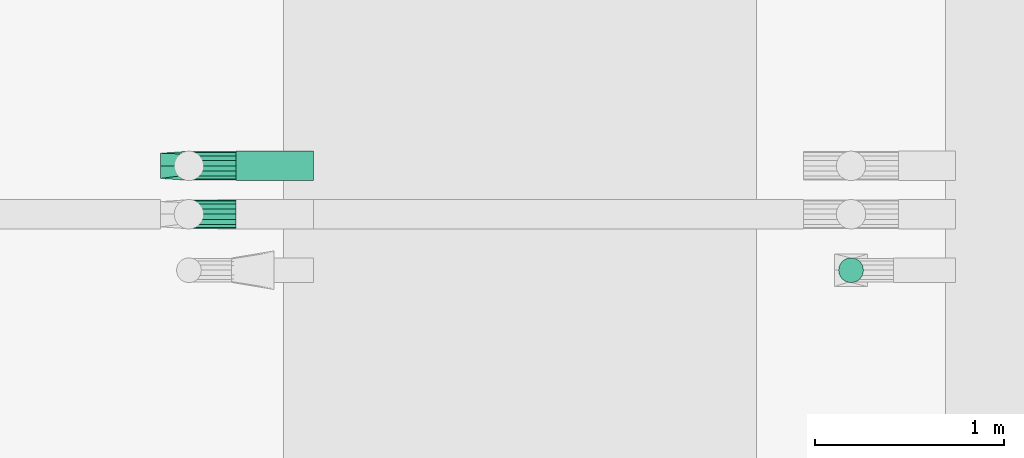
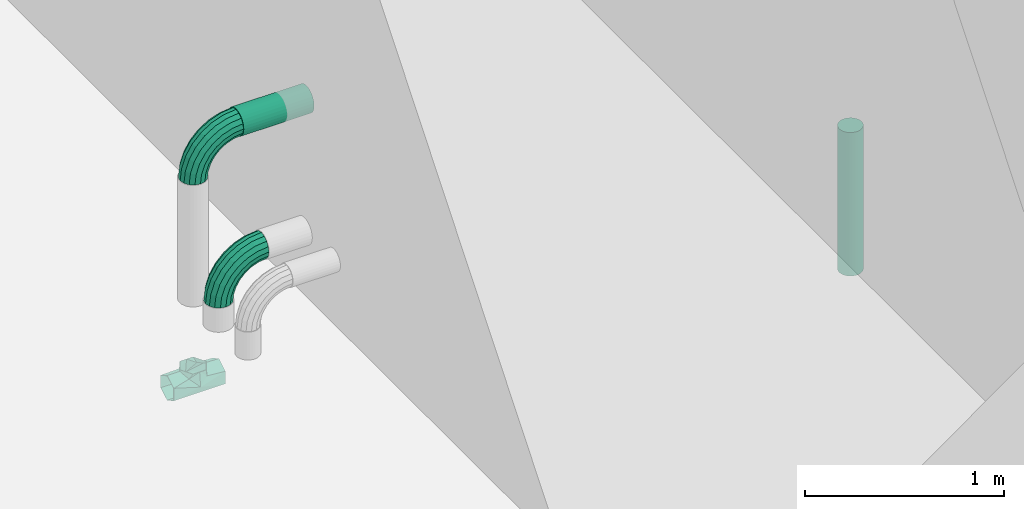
# One storey, part 20 of 23: 3 flow fittings, 2 flow segments.
"""IFC2X3 building model written with IfcOpenShell, lengths in millimetres."""

from ifc_helpers import new_model, entity, si_unit, converted_unit, direction, frame, frame_2d, origin, origin_2d_with_axis, place, context, subcontext, project, spatial, circle, extrude, faceted_brep, source, transform, mapped, material, type_object, type_shapes, element, save


model = new_model("IFC2X3")

# Units and contexts
model_context = context("Model", 3, precision=0.01, world=origin(), true_north=direction((6.123031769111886e-17, 1.0)))
body_context = subcontext(model_context, "Body", "Model", "MODEL_VIEW")
ifc_project = project(units=[si_unit("LENGTHUNIT", "METRE", prefix="MILLI"), converted_unit("PLANEANGLEUNIT", "DEGREE", entity("IfcPlaneAngleMeasure", 0.017453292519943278), si_unit("PLANEANGLEUNIT", "RADIAN"), dimensions=[0, 0, 0, 0, 0, 0, 0]), si_unit("AREAUNIT", "SQUARE_METRE")], contexts=[model_context])

# Site, building, storey
site_placement = place(None, frame((7776.576483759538, 118.3519876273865, 0.0)))
site = spatial("IfcSite", under=ifc_project, at=site_placement, Name="Default", CompositionType="ELEMENT")
building_placement = place(site_placement, origin())
building = spatial("IfcBuilding", under=site, at=building_placement, Name="Bygning (endres i Project Information)", CompositionType="ELEMENT")
storey_placement = place(building_placement, frame((0.0, 0.0, 19000.0)))
storey = spatial("IfcBuildingStorey", under=building, at=storey_placement, Name="Plan 01", CompositionType="ELEMENT", Elevation=19000.0)

# Flow segments
ifc_material_1 = material(Name="SS 2343 Rustfritt stål, prosessrør, generisk")
pipe_segment_type = type_object("IfcPipeSegmentType", Name="Pipe Types:AISI 304L Rustfritt", PredefinedType="NOTDEFINED", material=ifc_material_1)
flow_segment_1_placement = place(storey_placement, origin())
element("IfcFlowSegment", 1, at=flow_segment_1_placement, inside=storey, type_object=pipe_segment_type, Name="Pipe Types:AISI 304L Rustfritt", ObjectType="Pipe Types:AISI 304L Rustfritt", context=body_context, shape_type="SweptSolid", body=[
    extrude(circle(Radius=78.0, at=frame_2d((-8.662937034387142e-12, 0.0), x_axis=(1.0, 0.0))), frame((24574.001374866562, 25237.757305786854, 996.2612635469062), z_axis=(1.0, 0.0, 0.0), x_axis=(0.0, 1.0, 0.0)), (0.0, 0.0, 1.0), 409.175621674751),
])
flow_segment_2_placement = place(storey_placement, origin())
element("IfcFlowSegment", 2, at=flow_segment_2_placement, inside=storey, type_object=pipe_segment_type, Name="Pipe Types:AISI 304L Rustfritt", ObjectType="Pipe Types:AISI 304L Rustfritt", context=body_context, shape_type="SweptSolid", body=[
    extrude(circle(Radius=65.5, at=origin_2d_with_axis()), frame((27824.00137486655, 24685.757305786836, -709.8499999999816)), (0.0, 0.0, 1.0), 881.1499999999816),
])

# Flow fittings
pipe_fitting_type_1 = type_object("IfcPipeFittingType", Name="VA_prosess_rustfritt_bend_D+100:VA_prosess_rustfritt_bend_D+100", PredefinedType="NOTDEFINED", material=ifc_material_1)
shared_shape_1 = source(origin(), body_context, "Body", "Brep", [
    faceted_brep([(-177.68069646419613, -66.85157145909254, 0.0), (-178.95107627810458, -61.28567382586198, 28.701257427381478), (-250.0, -69.29096493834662, 28.701257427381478), (-250.0, -75.0, 0.0), (-182.56881190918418, -45.43533838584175, 53.033008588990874), (-250.0, -53.03300858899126, 53.033008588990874), (-187.98313590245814, -21.7136350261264, 69.29096493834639), (-250.0, -28.70125742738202, 69.29096493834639), (-194.36976651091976, 6.268021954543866, 75.0), (-250.0, 0.0, 75.0), (-200.7563971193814, 34.24967893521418, 69.29096493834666), (-250.0, 28.701257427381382, 69.29096493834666), (-206.17072111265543, 57.97138229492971, 53.033008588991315), (-250.0, 53.03300858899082, 53.033008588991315), (-209.78845674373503, 73.82171773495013, 28.70125742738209), (-250.0, 69.29096493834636, 28.70125742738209), (-211.05883655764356, 79.38761536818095, 0.0), (-250.0, 75.0, 0.0), (-209.78845674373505, 73.82171773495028, -28.70125742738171), (-250.0, 69.29096493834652, -28.70125742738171), (-206.17072111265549, 57.971382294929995, -53.03300858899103), (-250.0, 53.03300858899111, -53.03300858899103), (-200.75639711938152, 34.24967893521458, -69.29096493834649), (-250.0, 28.701257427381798, -69.29096493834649), (-194.36976651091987, 6.268021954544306, -75.0), (-250.0, 0.0, -75.0), (-187.98313590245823, -21.713635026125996, -69.29096493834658), (-250.0, -28.701257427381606, -69.29096493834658), (-182.56881190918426, -45.43533838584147, -53.033008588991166), (-250.0, -53.033008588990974, -53.033008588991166), (-178.95107627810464, -61.28567382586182, -28.7012574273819), (-250.0, -69.29096493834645, -28.7012574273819), (-108.9877847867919, -42.814882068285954, 0.0), (-111.4648422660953, -37.67121921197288, 28.701257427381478), (-118.5189051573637, -23.023306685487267, 53.033008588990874), (-129.07605633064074, -1.1011563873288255, 69.29096493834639), (-141.52906522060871, 24.75778302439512, 75.0), (-153.98207411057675, 50.6167224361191, 69.29096493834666), (-164.53922528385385, 72.53887273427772, 53.033008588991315), (-171.5932881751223, 87.18678526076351, 28.70125742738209), (-174.07034565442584, 92.33044811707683, 0.0), (-171.59328817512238, 87.18678526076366, -28.70125742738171), (-164.53922528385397, 72.53887273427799, -53.03300858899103), (-153.98207411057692, 50.616722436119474, -69.29096493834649), (-141.5290652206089, 24.757783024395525, -75.0), (-129.0760563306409, -1.1011563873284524, -69.29096493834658), (-118.51890515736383, -23.02330668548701, -53.033008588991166), (-111.46484226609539, -37.67121921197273, -28.7012574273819), (-47.365814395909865, -4.095231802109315, 0.0), (-50.92533953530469, 0.36827154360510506, 28.701257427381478), (-61.062009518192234, 13.079253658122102, 53.033008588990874), (-76.23260822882, 32.10258273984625, 69.29096493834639), (-94.12754953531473, 54.54212938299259, 75.0), (-112.02249084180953, 76.98167602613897, 69.29096493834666), (-127.19308955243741, 96.00500510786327, 53.033008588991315), (-137.32975953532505, 108.71598722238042, 28.70125742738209), (-140.88928467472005, 113.17949056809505, 0.0), (-137.32975953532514, 108.71598722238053, -28.70125742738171), (-127.19308955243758, 96.0050051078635, -53.03300858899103), (-112.02249084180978, 76.9816760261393, -69.29096493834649), (-94.12754953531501, 54.54212938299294, -75.0), (-76.23260822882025, 32.10258273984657, -69.29096493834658), (-61.06200951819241, 13.079253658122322, -53.033008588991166), (-50.92533953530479, 0.36827154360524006, -28.7012574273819), (4.095231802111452, 47.36581439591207, 0.0), (-0.36827154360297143, 50.9253395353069, 28.701257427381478), (-13.079253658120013, 61.06200951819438, 53.033008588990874), (-32.10258273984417, 76.23260822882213, 69.29096493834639), (-54.54212938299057, 94.12754953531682, 75.0), (-76.981676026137, 112.02249084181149, 69.29096493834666), (-96.00500510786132, 127.19308955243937, 53.033008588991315), (-108.71598722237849, 137.32975953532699, 28.70125742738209), (-113.17949056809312, 140.88928467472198, 0.0), (-108.71598722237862, 137.32975953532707, -28.70125742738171), (-96.00500510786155, 127.19308955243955, -53.03300858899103), (-76.98167602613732, 112.02249084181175, -69.29096493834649), (-54.542129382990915, 94.1275495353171, -75.0), (-32.1025827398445, 76.23260822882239, -69.29096493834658), (-13.079253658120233, 61.06200951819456, -53.033008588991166), (-0.3682715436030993, 50.925339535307, -28.7012574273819), (42.81488206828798, 108.98778478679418, 0.0), (37.671219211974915, 111.4648422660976, 28.701257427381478), (23.023306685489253, 118.51890515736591, 53.033008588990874), (1.1011563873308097, 129.0760563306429, 69.29096493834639), (-24.75778302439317, 141.52906522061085, 75.0), (-50.61672243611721, 153.98207411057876, 69.29096493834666), (-72.53887273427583, 164.53922528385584, 53.033008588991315), (-87.18678526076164, 171.59328817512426, 28.70125742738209), (-92.33044811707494, 174.0703456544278, 0.0), (-87.18678526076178, 171.59328817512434, -28.70125742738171), (-72.53887273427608, 164.53922528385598, -53.03300858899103), (-50.61672243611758, 153.98207411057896, -69.29096493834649), (-24.757783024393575, 141.52906522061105, -75.0), (1.101156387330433, 129.0760563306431, -69.29096493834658), (23.023306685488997, 118.51890515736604, -53.033008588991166), (37.67121921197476, 111.46484226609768, -28.7012574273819), (66.8515714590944, 177.68069646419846, 0.0), (61.285673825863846, 178.9510762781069, 28.701257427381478), (45.4353383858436, 182.56881190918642, 53.033008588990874), (21.713635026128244, 187.98313590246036, 69.29096493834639), (-6.268021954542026, 194.36976651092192, 75.0), (-34.24967893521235, 200.75639711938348, 69.29096493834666), (-57.9713822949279, 206.17072111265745, 53.033008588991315), (-73.82171773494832, 209.78845674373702, 28.70125742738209), (-79.38761536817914, 211.05883655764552, 0.0), (-73.82171773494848, 209.78845674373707, -28.70125742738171), (-57.97138229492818, 206.1707211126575, -53.03300858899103), (-34.249678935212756, 200.75639711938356, -69.29096493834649), (-6.268021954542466, 194.36976651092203, -75.0), (21.71363502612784, 187.98313590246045, -69.29096493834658), (45.43533838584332, 182.5688119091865, -53.033008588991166), (61.28567382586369, 178.95107627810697, -28.7012574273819), (75.0, 250.0, 0.0), (69.29096493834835, 250.0, 28.701257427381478), (53.033008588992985, 250.0, 53.033008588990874), (28.701257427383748, 250.0, 69.29096493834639), (0.0, 250.0, 75.0), (-28.701257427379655, 250.0, 69.29096493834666), (-53.03300858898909, 250.0, 53.033008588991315), (-69.29096493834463, 250.0, 28.70125742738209), (-75.0, 250.0, 0.0), (-69.29096493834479, 250.0, -28.70125742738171), (-53.03300858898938, 250.0, -53.03300858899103), (-28.70125742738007, 250.0, -69.29096493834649), (0.0, 250.0, -75.0), (28.701257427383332, 250.0, -69.29096493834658), (53.0330085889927, 250.0, -53.033008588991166), (69.29096493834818, 250.0, -28.7012574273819)], [[[0, 1, 2, 3]], [[1, 4, 5, 2]], [[4, 6, 7, 5]], [[6, 8, 9, 7]], [[8, 10, 11, 9]], [[10, 12, 13, 11]], [[12, 14, 15, 13]], [[14, 16, 17, 15]], [[16, 18, 19, 17]], [[18, 20, 21, 19]], [[20, 22, 23, 21]], [[22, 24, 25, 23]], [[24, 26, 27, 25]], [[26, 28, 29, 27]], [[28, 30, 31, 29]], [[30, 0, 3, 31]], [[32, 33, 1, 0]], [[33, 34, 4, 1]], [[34, 35, 6, 4]], [[35, 36, 8, 6]], [[36, 37, 10, 8]], [[37, 38, 12, 10]], [[38, 39, 14, 12]], [[39, 40, 16, 14]], [[40, 41, 18, 16]], [[41, 42, 20, 18]], [[42, 43, 22, 20]], [[43, 44, 24, 22]], [[44, 45, 26, 24]], [[45, 46, 28, 26]], [[46, 47, 30, 28]], [[47, 32, 0, 30]], [[48, 49, 33, 32]], [[49, 50, 34, 33]], [[50, 51, 35, 34]], [[51, 52, 36, 35]], [[52, 53, 37, 36]], [[53, 54, 38, 37]], [[54, 55, 39, 38]], [[55, 56, 40, 39]], [[56, 57, 41, 40]], [[57, 58, 42, 41]], [[58, 59, 43, 42]], [[59, 60, 44, 43]], [[60, 61, 45, 44]], [[61, 62, 46, 45]], [[62, 63, 47, 46]], [[63, 48, 32, 47]], [[64, 65, 49, 48]], [[65, 66, 50, 49]], [[66, 67, 51, 50]], [[67, 68, 52, 51]], [[68, 69, 53, 52]], [[69, 70, 54, 53]], [[70, 71, 55, 54]], [[71, 72, 56, 55]], [[72, 73, 57, 56]], [[73, 74, 58, 57]], [[74, 75, 59, 58]], [[75, 76, 60, 59]], [[76, 77, 61, 60]], [[77, 78, 62, 61]], [[78, 79, 63, 62]], [[79, 64, 48, 63]], [[80, 81, 65, 64]], [[81, 82, 66, 65]], [[82, 83, 67, 66]], [[83, 84, 68, 67]], [[84, 85, 69, 68]], [[85, 86, 70, 69]], [[86, 87, 71, 70]], [[87, 88, 72, 71]], [[88, 89, 73, 72]], [[89, 90, 74, 73]], [[90, 91, 75, 74]], [[91, 92, 76, 75]], [[92, 93, 77, 76]], [[93, 94, 78, 77]], [[94, 95, 79, 78]], [[95, 80, 64, 79]], [[96, 97, 81, 80]], [[97, 98, 82, 81]], [[98, 99, 83, 82]], [[99, 100, 84, 83]], [[100, 101, 85, 84]], [[101, 102, 86, 85]], [[102, 103, 87, 86]], [[103, 104, 88, 87]], [[104, 105, 89, 88]], [[105, 106, 90, 89]], [[106, 107, 91, 90]], [[107, 108, 92, 91]], [[108, 109, 93, 92]], [[109, 110, 94, 93]], [[110, 111, 95, 94]], [[111, 96, 80, 95]], [[112, 113, 97, 96]], [[113, 114, 98, 97]], [[114, 115, 99, 98]], [[115, 116, 100, 99]], [[116, 117, 101, 100]], [[117, 118, 102, 101]], [[118, 119, 103, 102]], [[119, 120, 104, 103]], [[120, 121, 105, 104]], [[121, 122, 106, 105]], [[122, 123, 107, 106]], [[123, 124, 108, 107]], [[124, 125, 109, 108]], [[125, 126, 110, 109]], [[126, 127, 111, 110]], [[127, 112, 96, 111]], [[3, 2, 5, 7, 9, 11, 13, 15, 17, 19, 21, 23, 25, 27, 29, 31]], [[127, 126, 125, 124, 123, 122, 121, 120, 119, 118, 117, 116, 115, 114, 113, 112]]]),
])
type_shapes(pipe_fitting_type_1, [shared_shape_1])
for number, where, z_axis, x_axis in (
    (3, (24324.001374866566, 24981.757305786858, 396.26126354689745), (0.0, -1.0, 0.0), (-1.0, 0.0, 0.0)),
    (4, (24324.001374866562, 25237.757305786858, 996.2612635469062), (0.0, -1.0, 0.0), (-1.0, 0.0, 0.0)),
):
    element("IfcFlowFitting", number, at=place(storey_placement, frame(where, z_axis=z_axis, x_axis=x_axis)), inside=storey, type_object=pipe_fitting_type_1, material=ifc_material_1, Name="VA_prosess_rustfritt_bend_D+100:VA_prosess_rustfritt_bend_D+100", ObjectType="VA_prosess_rustfritt_bend_D+100:VA_prosess_rustfritt_bend_D+100", context=body_context, shape_type="MappedRepresentation", body=[
        mapped(shared_shape_1, transform((0.0, 0.0, 0.0), scale=1.0)),
    ])
ifc_material_2 = material(Name="Rustfritt")
pipe_fitting_type_2 = type_object("IfcPipeFittingType", Name="T-rør,Rustfritt EN 1,4307304L, sveiste, oppkraget, metrisk, EN 10253-4:Standard", PredefinedType="NOTDEFINED", material=ifc_material_2)
shared_shape_2 = source(origin(), body_context, "Body", "Brep", [
    faceted_brep([(-150.0, 38.49999999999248, -66.68395609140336), (-150.0, 37.49999999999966, -64.95190528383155), (-150.0, 56.24999999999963, -32.4759526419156), (-150.0, 75.0, 0.0), (-150.0, 58.22570226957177, -32.518037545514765), (-150.0, 0.0, -64.9519052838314), (-150.0, -37.50000000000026, -64.95190528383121), (-150.0, 0.0, -66.68395609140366), (-150.0, -38.50000000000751, -66.68395609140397), (-150.0, -56.250000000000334, -32.47595264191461), (-150.0, -75.0, 0.0), (-150.0, -57.75000000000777, -33.34197804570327), (-150.0, -77.0, 0.0), (-150.0, -65.97619893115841, 15.629681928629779), (-150.0, -56.25000000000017, 32.475952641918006), (-150.0, -37.50000000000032, 64.95190528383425), (-150.0, -67.61285111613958, 16.25901880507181), (-150.0, -57.75000000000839, 33.3419780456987), (-150.0, -38.500000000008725, 66.68395609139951), (-150.0, 0.0, 66.68395609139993), (-150.0, 38.4999999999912, 66.68395609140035), (-150.0, 0.0, 64.95190528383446), (-150.0, 37.4999999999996, 64.95190528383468), (-150.0, 57.74999999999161, 33.34197804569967), (-150.0, 77.0, 0.0), (-150.0, 56.95239642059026, 31.25936635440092), (150.0, 38.499999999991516, -66.68395609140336), (150.0, 75.0, 0.0), (150.0, 56.24999999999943, -32.47595264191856), (150.0, 57.749999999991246, -33.34197804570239), (150.0, 37.49999999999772, -64.95190528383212), (150.0, 0.0, -64.95190528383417), (150.0, -37.50000000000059, -64.95190528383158), (150.0, 0.0, -66.68395609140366), (150.0, 77.0, 0.0), (150.0, 56.249999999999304, 32.47595264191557), (150.0, 37.49999999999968, 64.95190528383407), (150.0, 57.749999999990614, 33.34197804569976), (150.0, 38.499999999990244, 66.68395609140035), (150.0, 0.0, 64.95190528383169), (150.0, -37.50000000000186, 64.95190528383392), (150.0, 0.0, 66.68395609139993), (150.0, -38.50000000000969, 66.68395609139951), (150.0, -57.75000000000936, 33.34197804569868), (150.0, -77.0, 0.0), (150.0, -56.25000000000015, 32.47595264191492), (150.0, -75.0, 0.0), (150.0, -67.61285113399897, -16.259018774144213), (150.0, -57.75000000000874, -33.34197804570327), (150.0, -38.50000000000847, -66.68395609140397), (150.0, -56.25000000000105, -32.475952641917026), (150.0, -65.97619884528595, -15.629682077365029), (65.77906443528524, -65.77906443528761, 27.16804452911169), (54.55812887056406, -54.558128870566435, 54.33608905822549), (0.0, 0.0, 77.0), (-44.65656453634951, -44.65656453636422, 62.72791439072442), (77.0, -77.0, 0.0), (-77.0, -77.0, 0.0), (-68.9141411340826, -68.91414113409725, 15.68197859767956), (-60.828282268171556, -60.82828226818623, 31.363957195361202), (-59.763127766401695, -59.76312776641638, 33.42975260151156), (0.0, 0.0, -77.0), (68.91414113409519, -68.91414113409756, -15.681978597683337), (60.828282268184, -60.82828226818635, -31.36395719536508), (59.7631277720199, -59.76312777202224, -33.42975259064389), (44.65656453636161, -44.656564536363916, -62.72791439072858), (-65.77906443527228, -65.77906443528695, -27.16804452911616), (-54.55812887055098, -54.558128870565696, -54.33608905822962), (38.50000000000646, -85.71428571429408, -66.68395609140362), (75.0, -85.71428571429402, 0.0), (67.10417402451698, -85.71428571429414, -13.675971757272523), (60.572489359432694, -85.71428571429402, -28.453283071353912), (59.20834804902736, -85.7142857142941, -27.35194351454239), (37.50000000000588, -85.71428571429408, -64.95190528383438), (0.0, -85.71428571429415, -64.95190528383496), (-37.499999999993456, -85.71428571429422, -64.95190528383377), (0.0, -85.71428571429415, -66.68395609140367), (68.78624467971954, -85.71428571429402, -14.226641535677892), (77.0, -85.71428571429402, 0.0), (56.25000000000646, -85.71428571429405, 32.475952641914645), (37.500000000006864, -85.71428571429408, 64.95190528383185), (57.750000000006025, -85.71428571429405, 33.34197804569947), (38.50000000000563, -85.71428571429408, 66.68395609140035), (0.0, -85.71428571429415, 64.95190528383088), (-37.49999999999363, -85.71428571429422, 64.9519052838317), (0.0, -85.71428571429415, 66.68395609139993), (-38.4999999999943, -85.71428571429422, 66.68395609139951), (-60.57248947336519, -85.71428571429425, 28.45328287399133), (-68.7862447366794, -85.71428571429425, 14.226641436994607), (-77.0, -85.71428571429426, 0.0), (-59.20834518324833, -85.71428571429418, 27.35194847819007), (-67.10417259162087, -85.71428571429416, 13.67597423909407), (-75.0, -85.71428571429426, 0.0), (-57.74999999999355, -85.71428571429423, -33.34197804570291), (-38.499999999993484, -85.71428571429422, -66.68395609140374), (-56.2499999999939, -85.71428571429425, -32.47595264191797), (-64.06768997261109, -64.06768997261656, -26.465219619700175), (-53.1353799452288, -53.13537994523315, -52.93043923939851), (59.24496950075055, -59.24496950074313, -30.551698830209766), (-75.0, -75.0, 0.0), (43.48993900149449, -43.48993900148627, -61.10339766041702), (67.12248475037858, -67.12248475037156, -15.275849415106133), (58.423333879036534, -58.42333387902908, -32.144990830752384), (75.0, -75.0, 0.0), (0.0, 0.0, -75.0), (64.06768997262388, -64.06768997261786, 26.465219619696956), (53.13537994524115, -53.13537994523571, 52.93043923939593), (-67.12248475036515, -67.12248475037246, 15.27584941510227), (-59.24496950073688, -59.24496950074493, 30.55169883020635), (-43.489939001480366, -43.48993900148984, 61.103397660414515), (-58.42333401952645, -58.42333401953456, 32.14499055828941), (0.0, 0.0, 75.0)], [[[0, 1, 2]], [[0, 2, 3]], [[3, 4, 0]], [[0, 5, 1]], [[0, 6, 5]], [[6, 0, 7]], [[6, 7, 8]], [[8, 9, 6]], [[8, 10, 9]], [[10, 8, 11]], [[10, 11, 12]], [[12, 13, 10]], [[12, 14, 13]], [[12, 15, 14]], [[15, 12, 16]], [[15, 16, 17]], [[15, 17, 18]], [[15, 18, 19]], [[15, 19, 20]], [[20, 21, 15]], [[20, 22, 21]], [[22, 20, 23]], [[22, 23, 24]], [[3, 24, 4]], [[24, 3, 25]], [[24, 25, 22]], [[26, 27, 28]], [[27, 26, 29]], [[26, 28, 30]], [[26, 30, 31]], [[26, 31, 32]], [[32, 33, 26]], [[27, 29, 34]], [[34, 35, 27]], [[34, 36, 35]], [[36, 34, 37]], [[36, 37, 38]], [[38, 39, 36]], [[38, 40, 39]], [[40, 38, 41]], [[40, 41, 42]], [[40, 42, 43]], [[40, 43, 44]], [[44, 45, 40]], [[44, 46, 45]], [[46, 44, 47]], [[46, 47, 48]], [[46, 48, 49]], [[49, 32, 50]], [[32, 49, 33]], [[49, 50, 51]], [[49, 51, 46]], [[43, 52, 44]], [[53, 43, 42]], [[54, 42, 41, 38]], [[17, 55, 18]], [[44, 52, 56]], [[12, 57, 16]], [[43, 53, 52]], [[42, 54, 53]], [[24, 23, 20, 38, 37, 34]], [[18, 54, 20, 19]], [[18, 55, 54]], [[16, 57, 58, 59, 60]], [[20, 54, 38]], [[55, 17, 60]], [[60, 17, 16]], [[0, 4, 24, 34, 29, 26]], [[61, 26, 33, 49]], [[0, 26, 61]], [[0, 61, 8, 7]], [[47, 56, 62, 63, 64]], [[65, 48, 64]], [[12, 66, 57]], [[56, 47, 44]], [[64, 48, 47]], [[65, 49, 48]], [[67, 8, 61]], [[11, 66, 12]], [[11, 67, 66]], [[67, 11, 8]], [[49, 65, 61]], [[68, 69, 70]], [[69, 68, 71]], [[68, 70, 72]], [[68, 72, 73]], [[68, 73, 74]], [[68, 74, 75]], [[75, 76, 68]], [[69, 71, 77]], [[69, 77, 78]], [[78, 79, 69]], [[78, 80, 79]], [[80, 78, 81]], [[80, 81, 82]], [[82, 83, 80]], [[82, 84, 83]], [[84, 82, 85]], [[84, 85, 86]], [[84, 86, 87]], [[84, 87, 88]], [[84, 88, 89]], [[89, 90, 84]], [[89, 91, 90]], [[89, 92, 91]], [[92, 89, 93]], [[92, 93, 94]], [[94, 75, 95]], [[75, 94, 76]], [[94, 95, 92]], [[86, 55, 60, 59]], [[53, 82, 81]], [[57, 89, 88]], [[55, 86, 85]], [[88, 87, 58]], [[56, 52, 78]], [[85, 53, 54]], [[78, 52, 81]], [[53, 81, 52]], [[87, 59, 58]], [[57, 88, 58]], [[82, 53, 85]], [[55, 85, 54]], [[86, 59, 87]], [[68, 65, 64, 63]], [[67, 94, 93]], [[56, 78, 77]], [[65, 68, 76]], [[68, 63, 71]], [[57, 66, 89]], [[77, 71, 62]], [[89, 66, 93]], [[67, 93, 66]], [[56, 77, 62]], [[76, 67, 61]], [[94, 67, 76]], [[65, 76, 61]], [[71, 63, 62]], [[96, 95, 97]], [[95, 96, 92]], [[72, 98, 73]], [[92, 96, 99]], [[74, 73, 100]], [[95, 75, 97]], [[101, 72, 70]], [[73, 98, 102, 100]], [[101, 70, 103]], [[101, 98, 72]], [[104, 97, 74]], [[97, 75, 74]], [[104, 74, 100]], [[69, 103, 70]], [[105, 79, 106]], [[107, 90, 91]], [[90, 108, 84]], [[69, 105, 103]], [[83, 84, 109]], [[79, 105, 69]], [[84, 108, 110, 109]], [[99, 91, 92]], [[107, 91, 99]], [[79, 80, 106]], [[111, 106, 83]], [[106, 80, 83]], [[111, 83, 109]], [[107, 108, 90]], [[10, 96, 9]], [[6, 9, 97]], [[31, 30, 104, 32]], [[32, 100, 50]], [[99, 96, 10]], [[51, 103, 46]], [[51, 50, 102]], [[97, 104, 6]], [[96, 97, 9]], [[1, 5, 6, 104]], [[3, 2, 1, 30, 28, 27]], [[104, 100, 32]], [[1, 104, 30]], [[51, 102, 98, 101, 103]], [[102, 50, 100]], [[110, 14, 109]], [[25, 3, 27, 35, 36, 22]], [[111, 15, 21, 22]], [[111, 22, 36]], [[111, 36, 39, 40]], [[105, 106, 45]], [[109, 15, 111]], [[14, 15, 109]], [[13, 99, 10]], [[13, 14, 110]], [[103, 105, 46]], [[45, 106, 40]], [[106, 111, 40]], [[46, 105, 45]], [[13, 110, 108, 107, 99]]]),
])
type_shapes(pipe_fitting_type_2, [shared_shape_2])
flow_fitting_placement = place(storey_placement, frame((24324.001374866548, 25237.75730578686, -500.0), z_axis=(0.0, 1.0, 0.0), x_axis=(1.0, 0.0, 0.0)))
element("IfcFlowFitting", 5, at=flow_fitting_placement, inside=storey, type_object=pipe_fitting_type_2, material=ifc_material_2, Name="T-rør,Rustfritt EN 1,4307304L, sveiste, oppkraget, metrisk, EN 10253-4:Standard", ObjectType="T-rør,Rustfritt EN 1,4307304L, sveiste, oppkraget, metrisk, EN 10253-4:Standard", context=body_context, shape_type="MappedRepresentation", body=[
    mapped(shared_shape_2, transform((0.0, 0.0, 0.0), scale=1.0)),
])

save(model, "model.ifc")
